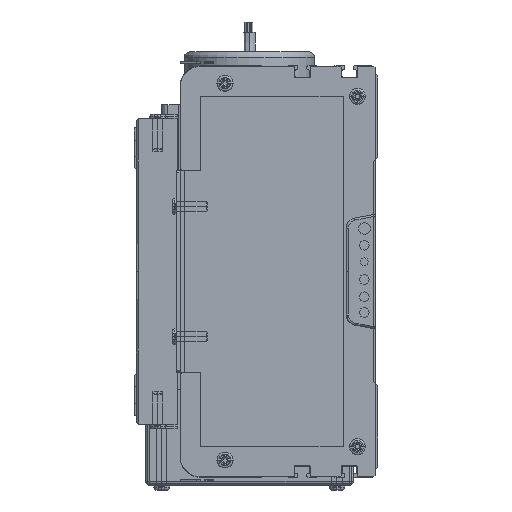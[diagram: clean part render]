
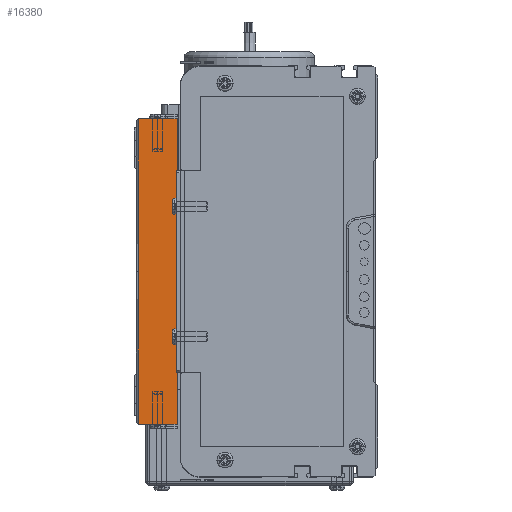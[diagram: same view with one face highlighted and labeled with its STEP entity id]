
A CAD part, left-side view. The second image highlights one B-rep face of the part: STEP entity #16380.
In plain terms, the highlighted planar face has unit normal (-1, 0, 0).
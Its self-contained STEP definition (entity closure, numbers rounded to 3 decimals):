
#15654 = EDGE_CURVE ( 'NONE', #15803, #15715, #137827, .T. ) ;
#15710 = VERTEX_POINT ( 'NONE', #137790 ) ;
#15715 = VERTEX_POINT ( 'NONE', #137800 ) ;
#15803 = VERTEX_POINT ( 'NONE', #137759 ) ;
#15881 = EDGE_CURVE ( 'NONE', #15710, #15715, #138654, .T. ) ;
#16136 = EDGE_CURVE ( 'NONE', #16299, #15710, #139007, .T. ) ;
#16248 = EDGE_CURVE ( 'NONE', #15803, #16399, #139336, .T. ) ;
#16299 = VERTEX_POINT ( 'NONE', #139414 ) ;
#16332 = EDGE_LOOP ( 'NONE', ( #16393, #16396, #16415, #16453, #16470 ) ) ;
#16380 = ADVANCED_FACE ( 'NONE', ( #139700 ), #139541, .F. ) ;
#16393 = ORIENTED_EDGE ( 'NONE', *, *, #15654, .F. ) ;
#16396 = ORIENTED_EDGE ( 'NONE', *, *, #16248, .T. ) ;
#16397 = EDGE_CURVE ( 'NONE', #16399, #16299, #139599, .T. ) ;
#16399 = VERTEX_POINT ( 'NONE', #139604 ) ;
#16415 = ORIENTED_EDGE ( 'NONE', *, *, #16397, .T. ) ;
#16453 = ORIENTED_EDGE ( 'NONE', *, *, #16136, .T. ) ;
#16470 = ORIENTED_EDGE ( 'NONE', *, *, #15881, .T. ) ;
#137553 = VECTOR ( 'NONE', #137595, 1000. ) ;
#137595 = DIRECTION ( 'NONE',  ( 0., -1., 0. ) ) ;
#137759 = CARTESIAN_POINT ( 'NONE',  ( 0., 19., 75. ) ) ;
#137790 = CARTESIAN_POINT ( 'NONE',  ( 0., 0., -75. ) ) ;
#137800 = CARTESIAN_POINT ( 'NONE',  ( 0., 0., 75. ) ) ;
#137825 = CARTESIAN_POINT ( 'NONE',  ( 0., 20., 75. ) ) ;
#137827 = LINE ( 'NONE', #137825, #137553 ) ;
#138650 = DIRECTION ( 'NONE',  ( 0., 0., 1. ) ) ;
#138651 = VECTOR ( 'NONE', #138650, 1000. ) ;
#138652 = CARTESIAN_POINT ( 'NONE',  ( 0., 0., 0. ) ) ;
#138654 = LINE ( 'NONE', #138652, #138651 ) ;
#138904 = DIRECTION ( 'NONE',  ( 0., -1., 0. ) ) ;
#138905 = VECTOR ( 'NONE', #138904, 1000. ) ;
#138906 = CARTESIAN_POINT ( 'NONE',  ( 0., 20., -75. ) ) ;
#139007 = LINE ( 'NONE', #138906, #138905 ) ;
#139329 = DIRECTION ( 'NONE',  ( 0., 0., -1. ) ) ;
#139330 = VECTOR ( 'NONE', #139329, 1000. ) ;
#139336 = LINE ( 'NONE', #139342, #139330 ) ;
#139342 = CARTESIAN_POINT ( 'NONE',  ( 0., 19., 0. ) ) ;
#139414 = CARTESIAN_POINT ( 'NONE',  ( 0., 19., -75. ) ) ;
#139541 = PLANE ( 'NONE',  #139683 ) ;
#139595 = DIRECTION ( 'NONE',  ( 0., 0., -1. ) ) ;
#139596 = VECTOR ( 'NONE', #139595, 1000. ) ;
#139598 = CARTESIAN_POINT ( 'NONE',  ( 0., 19., 0. ) ) ;
#139599 = LINE ( 'NONE', #139598, #139596 ) ;
#139604 = CARTESIAN_POINT ( 'NONE',  ( 0., 19., 0. ) ) ;
#139683 = AXIS2_PLACEMENT_3D ( 'NONE', #139702, #139701, #139722 ) ;
#139700 = FACE_OUTER_BOUND ( 'NONE', #16332, .T. ) ;
#139701 = DIRECTION ( 'NONE',  ( 1., 0., 0. ) ) ;
#139702 = CARTESIAN_POINT ( 'NONE',  ( 0., 20., 0. ) ) ;
#139722 = DIRECTION ( 'NONE',  ( 0., 0., -1. ) ) ;
